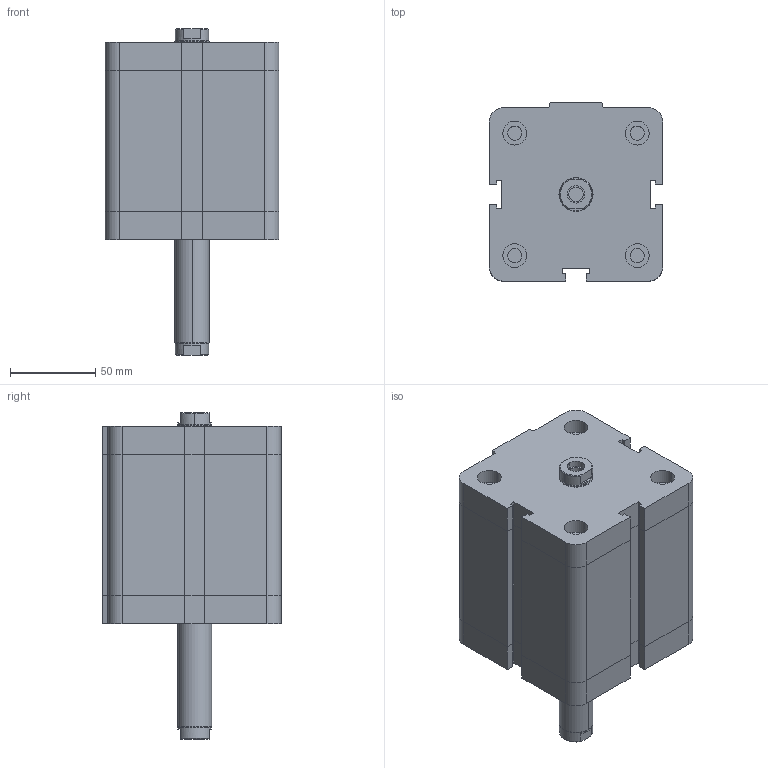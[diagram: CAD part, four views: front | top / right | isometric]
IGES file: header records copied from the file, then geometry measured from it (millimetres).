
Global section: file name: No Iges File Name specified; native system: Autodesk Inventor 2009; preprocessor: AutoDesk Inventor Iges Exporter R2009; author: maffial1; date: 20090420.200435; units: millimetre
Bounding box: 102 x 105 x 192 mm (x, y, z)
Volume: 1178282.8 mm3; surface area: 101306.3 mm2
Topology: 2 solids, 2 shells, 202 faces, 450 edges, 274 vertices
Faces by surface type: plane 114, bspline 42, revolution 20, cylinder 18, cone 8
